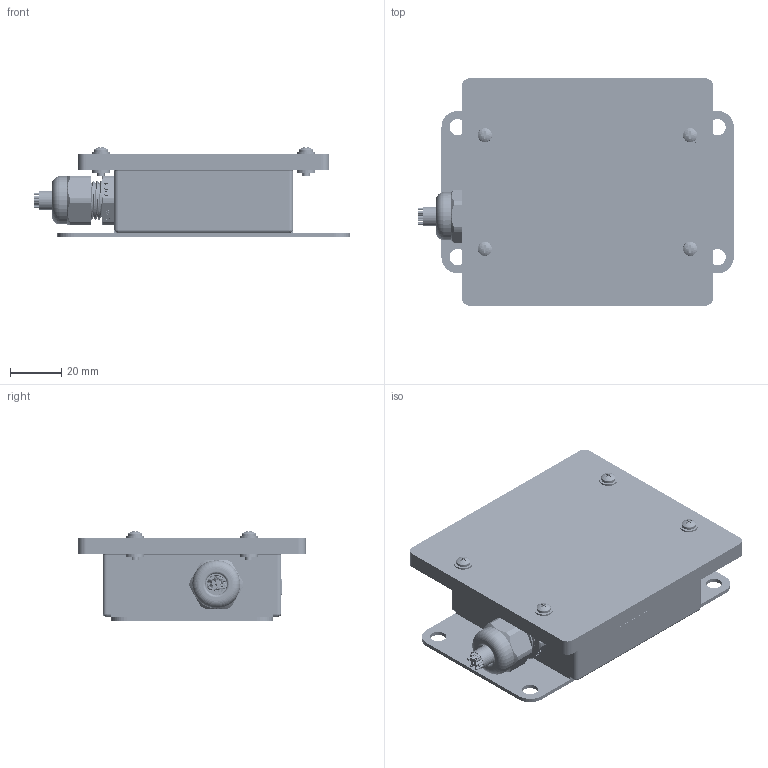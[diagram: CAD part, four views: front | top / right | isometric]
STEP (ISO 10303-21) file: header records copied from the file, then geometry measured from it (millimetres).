
FILE_DESCRIPTION(/* description */ ('Valve Controller, NFC, Clear Cover, IP67 Rated, Cable - 1.5m'),/* implementation_level */ '2;1');
FILE_NAME(/* name */ 'C:\Users\azhao\Documents\19003\MECHANICAL\STP\FG-AX020710-1.5M.stp',/* time_stamp */ '2020-10-22T20:10:59-04:00',/* author */ ('azhao'),/* organization */ (''),/* preprocessor_version */ 'ST-DEVELOPER v17',/* originating_system */ 'Autodesk Inventor 2018',/* authorisation */ '');
FILE_SCHEMA (('AUTOMOTIVE_DESIGN { 1 0 10303 214 3 1 1 }'));
Products named in the file (3): FG-AX020710-1.5M_; FG-AX020710-1.5M_Substitute_1; MPL-HFI-RSD1R01
Assembly tree (2 placements, depth 2):
  FG-AX020710-1.5M_
    FG-AX020710-1.5M_Substitute_1
    MPL-HFI-RSD1R01
Bounding box: 123.39 x 88.9 x 35.06 mm (x, y, z)
Volume: 98335.1 mm3; surface area: 80675.5 mm2
Topology: 18 solids, 26 shells, 8616 faces, 22234 edges, 14374 vertices
Faces by surface type: plane 6021, cylinder 1551, bspline 729, torus 155, sphere 102, cone 58
Full cylindrical faces by diameter (mm): 0.25 x1, 0.381 x482, 0.508 x28, 0.711 x9, 0.762 x313, 0.889 x9, 1.016 x72, 1.397 x6, 1.524 x44, 1.65 x1, 1.651 x1, 2.159 x7, 2.667 x8, 2.845 x8, 3.048 x4, 3.962 x4, 4.04 x2, 4.3 x1, 5.41 x4, 5.563 x4, 6.35 x8, 6.858 x4, 7.112 x4, 7.137 x4, 7.284 x1, 7.6 x1, 7.62 x1, 8.331 x1, 10 x2, 10.973 x1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
Entity records: 284751 total; most frequent: CARTESIAN_POINT 69406, ORIENTED_EDGE 44254, DIRECTION 39238, EDGE_CURVE 22135, LINE 16434, VECTOR 16434, VERTEX_POINT 14370, AXIS2_PLACEMENT_3D 11402
